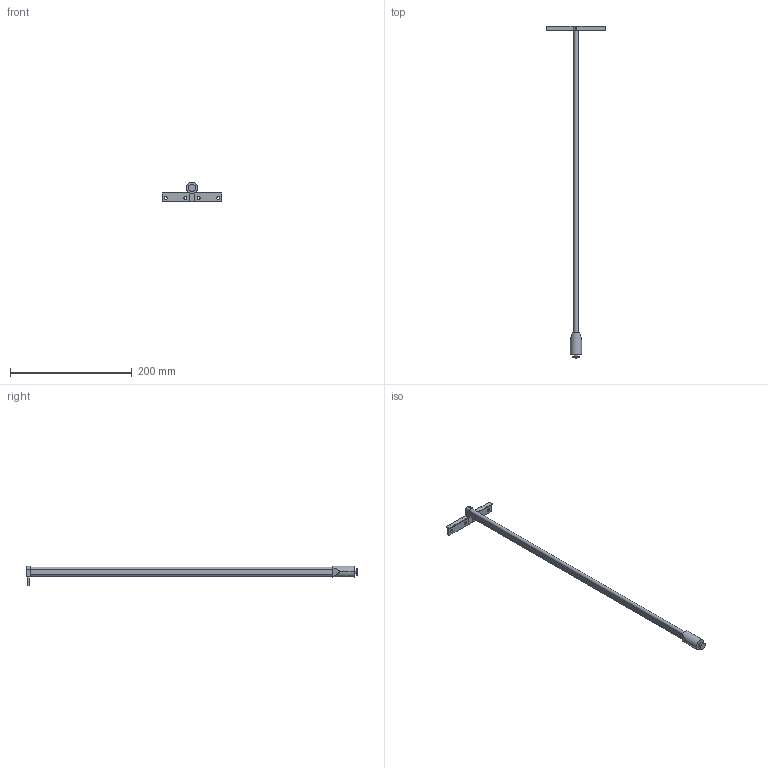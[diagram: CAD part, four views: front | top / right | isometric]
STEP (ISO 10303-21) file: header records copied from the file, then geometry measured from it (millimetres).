
FILE_DESCRIPTION (( 'STEP AP214' ), '1' );
FILE_NAME ('DWD-XP_Reling-Haengeregister_NL550_links.step', '2010-10-06T11:19:43', ( 'grass' ), ( '' ), 'SwSTEP 2.0', 'SolidWorks 2010', '' );
FILE_SCHEMA (( 'AUTOMOTIVE_DESIGN' ));
Length unit declared in the file: millimetre
Products named in the file (1): DWD-XP_Reling-Haengeregister_NL550_links
Bounding box: 97.9 x 544.3 x 32.15 mm (x, y, z)
Volume: 120095.4 mm3; surface area: 49066 mm2
Topology: 2 solids, 2 shells, 68 faces, 168 edges, 112 vertices
Faces by surface type: plane 40, cylinder 28
Entity records: 2087 total; most frequent: CARTESIAN_POINT 373, DIRECTION 354, ORIENTED_EDGE 336, EDGE_CURVE 168, AXIS2_PLACEMENT_3D 125, VERTEX_POINT 112, LINE 104, VECTOR 104
